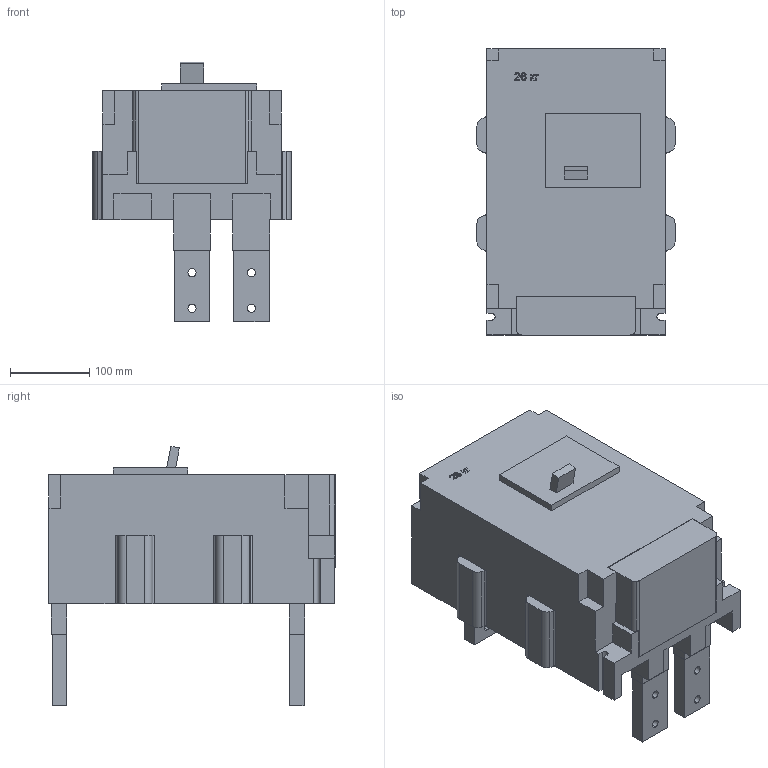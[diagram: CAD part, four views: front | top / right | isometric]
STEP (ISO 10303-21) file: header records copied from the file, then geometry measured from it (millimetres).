
FILE_DESCRIPTION (( 'STEP AP214' ), '1' );
FILE_NAME ('ÂÀ53(55)-41 çàäíåå ïðèñîåäèíåíèå DC.STEP', '2023-02-13T06:57:00', ( 'user' ), ( '' ), 'SwSTEP 2.0', 'SolidWorks 2018', '' );
FILE_SCHEMA (( 'AUTOMOTIVE_DESIGN' ));
Length unit declared in the file: millimetre
Products named in the file (1): ÂÀ53(55)-41 çàäíåå ïðèñîåäèíåíèå DC
Bounding box: 250 x 361.2 x 327.64 mm (x, y, z)
Volume: 13421264.9 mm3; surface area: 521833.9 mm2
Topology: 5 solids, 5 shells, 177 faces, 509 edges, 357 vertices
Faces by surface type: plane 135, cylinder 38, bspline 4
Entity records: 6359 total; most frequent: CARTESIAN_POINT 1542, ORIENTED_EDGE 1018, DIRECTION 892, EDGE_CURVE 509, VECTOR 392, LINE 392, VERTEX_POINT 357, AXIS2_PLACEMENT_3D 250
